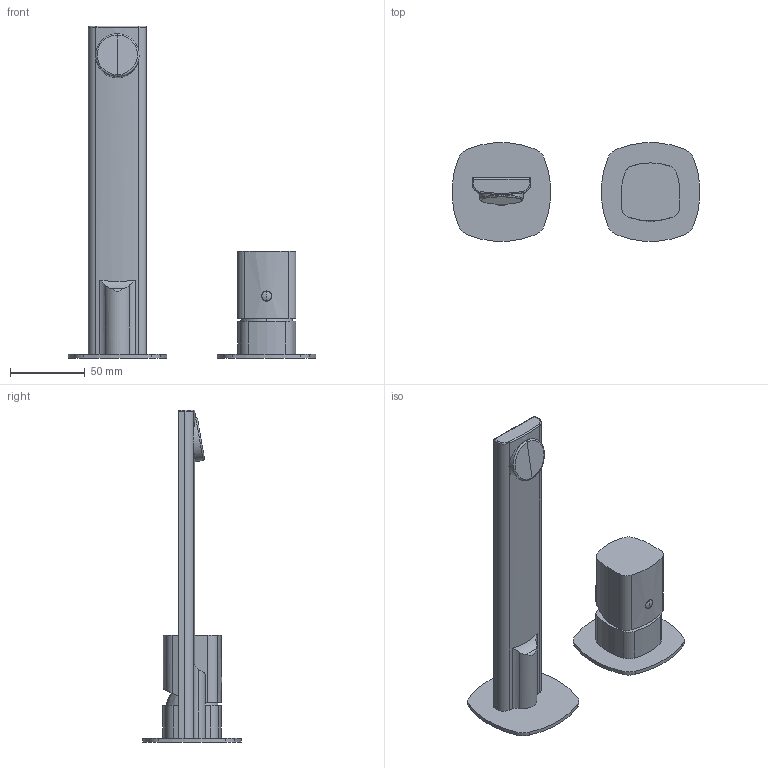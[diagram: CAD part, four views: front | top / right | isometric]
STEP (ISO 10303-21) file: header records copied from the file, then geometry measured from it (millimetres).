
FILE_DESCRIPTION(('FreeCAD Model'),'2;1');
FILE_NAME('Open CASCADE Shape Model','2024-11-19T14:03:17',('Author'),( ''),'Open CASCADE STEP processor 7.6','FreeCAD','Unknown');
FILE_SCHEMA(('AUTOMOTIVE_DESIGN { 1 0 10303 214 1 1 1 1 }'));
Length unit declared in the file: millimetre
Products named in the file (6): TopLevelAssembly; Połączona geometria bryłowa002; Połączona geometria bryłowa; Połączona geometria bryłowa001; Obrót profilu; Wyciąganie001
Assembly tree (5 placements, depth 3):
  TopLevelAssembly
    Połączona geometria bryłowa002
      Połączona geometria bryłowa
      Połączona geometria bryłowa001
    Obrót profilu
    Wyciąganie001
Bounding box: 165.93 x 65.93 x 222.5 mm (x, y, z)
Volume: 203645.4 mm3; surface area: 50089 mm2
Topology: 4 solids, 4 shells, 80 faces, 192 edges, 121 vertices
Faces by surface type: cylinder 50, plane 21, bspline 9
Entity records: 2673 total; most frequent: CARTESIAN_POINT 663, DIRECTION 430, ORIENTED_EDGE 380, EDGE_CURVE 190, AXIS2_PLACEMENT_3D 180, VERTEX_POINT 121, CIRCLE 96, FACE_BOUND 83
